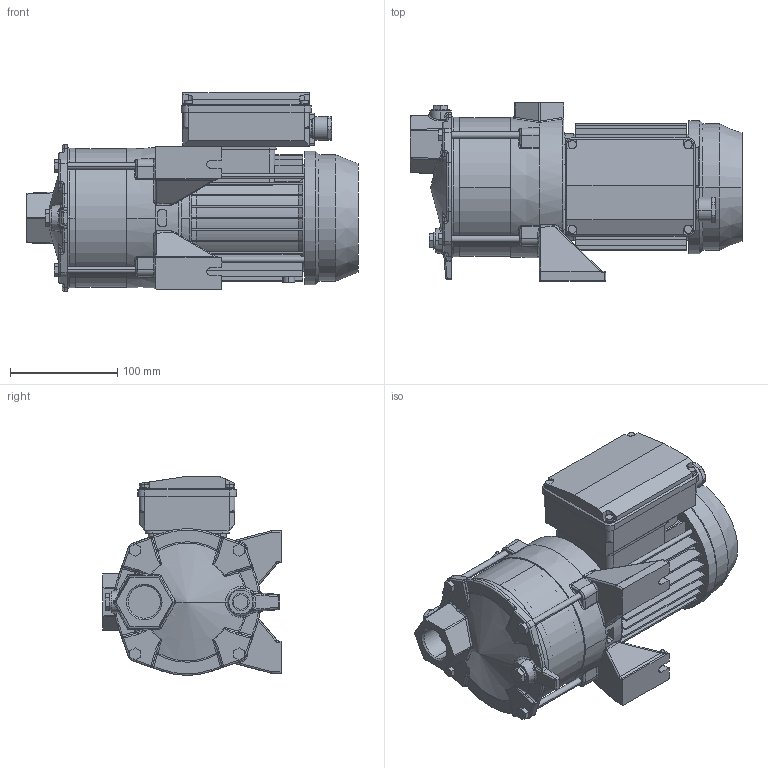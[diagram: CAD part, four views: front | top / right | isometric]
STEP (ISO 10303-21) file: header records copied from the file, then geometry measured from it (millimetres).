
FILE_DESCRIPTION((''),'2;1');
FILE_NAME('COMPACT_AM-4_ASM','2019-09-25T',('rosa'),('"Ebara Pumps Europe +39.444.706811"'),'PRO/ENGINEER BY PARAMETRIC TECHNOLOGY CORPORATION, 2017170','PRO/ENGINEER BY PARAMETRIC TECHNOLOGY CORPORATION, 2017170','');
FILE_SCHEMA(('AUTOMOTIVE_DESIGN { 1 0 10303 214 1 1 1 1 }'));
Products named in the file (7): 2710X_L-47; 80600; MEC_63_MONOFASE_4_TIRANTI; 20998; 40012_M6X85; COPRIMORS_MEC63_E3_SENZA_INT; COMPACT_AM-4_ASM
Assembly tree (9 placements, depth 2):
  COMPACT_AM-4_ASM
    2710X_L-47
    80600
    MEC_63_MONOFASE_4_TIRANTI
    20998
    40012_M6X85  x4
    COPRIMORS_MEC63_E3_SENZA_INT
Bounding box: 309.5 x 166 x 185.5 mm (x, y, z)
Volume: 2514616.8 mm3; surface area: 403570.3 mm2
Topology: 9 solids, 9 shells, 1163 faces, 2754 edges, 1641 vertices
Faces by surface type: plane 420, cylinder 337, bspline 235, cone 85, torus 49, sphere 37
Entity records: 53570 total; most frequent: CARTESIAN_POINT 19876, ORIENTED_EDGE 5360, DIRECTION 4807, PRESENTATION_STYLE_ASSIGNMENT 2687, STYLED_ITEM 2686, CURVE_STYLE 2680, EDGE_CURVE 2680, AXIS2_PLACEMENT_3D 1856
